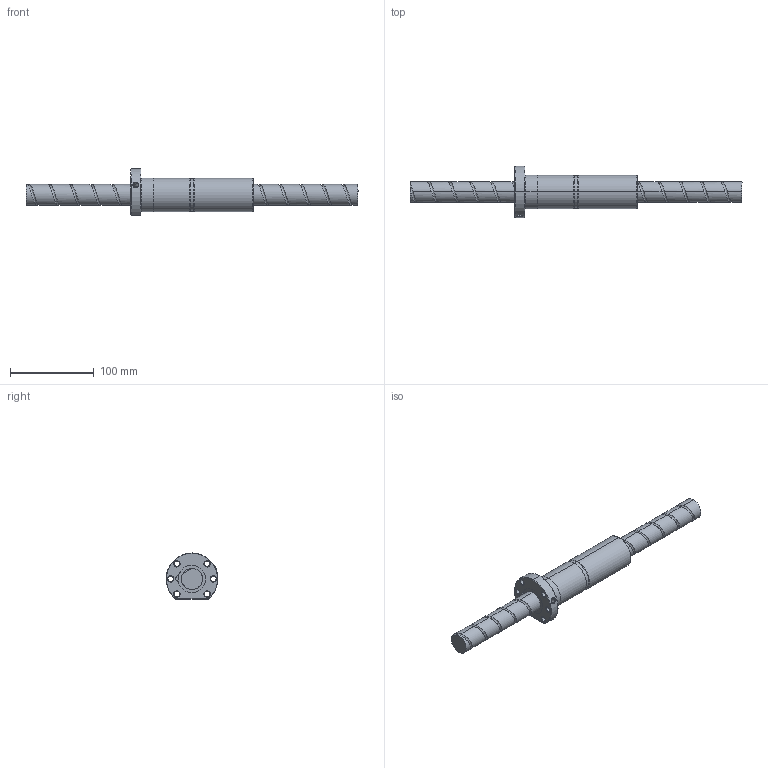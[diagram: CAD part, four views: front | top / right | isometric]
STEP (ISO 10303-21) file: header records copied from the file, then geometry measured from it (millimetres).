
FILE_DESCRIPTION (( 'STEP AP214' ), '1' );
FILE_NAME ('FDDC02525T2-B-B.STEP', '2010-07-06T03:21:45', ( 'XPAUTO' ), ( 'XPAUTO' ), 'SwSTEP 2.0', 'SolidWorks 2007', '' );
FILE_SCHEMA (( 'AUTOMOTIVE_DESIGN' ));
Length unit declared in the file: millimetre
Products named in the file (3): FDDC02525T2-B-B; FDDC02525T2-B-B.sldasm-Part-2_預設; FDDC02525T2-B-B.sldasm-Part-1_預設
Assembly tree (2 placements, depth 2):
  FDDC02525T2-B-B
    FDDC02525T2-B-B.sldasm-Part-1_預設
    FDDC02525T2-B-B.sldasm-Part-2_預設
Bounding box: 396 x 61.86 x 55 mm (x, y, z)
Volume: 315266.1 mm3; surface area: 70216.2 mm2
Topology: 2 solids, 2 shells, 133 faces, 328 edges, 204 vertices
Faces by surface type: cylinder 76, cone 24, plane 19, torus 9, bspline 5
Entity records: 25389 total; most frequent: CARTESIAN_POINT 22224, ORIENTED_EDGE 656, DIRECTION 628, EDGE_CURVE 328, AXIS2_PLACEMENT_3D 258, VERTEX_POINT 204, EDGE_LOOP 154, FACE_OUTER_BOUND 133
